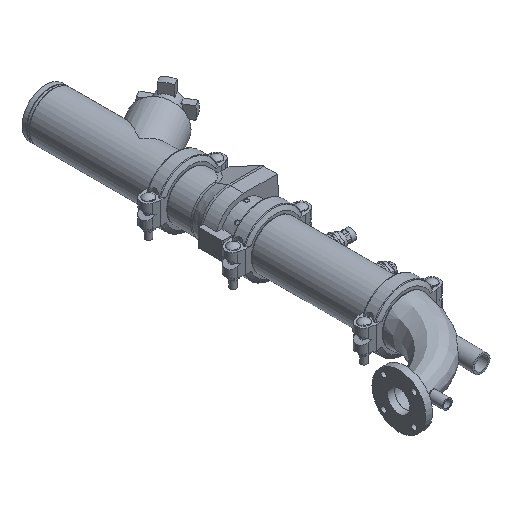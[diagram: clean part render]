
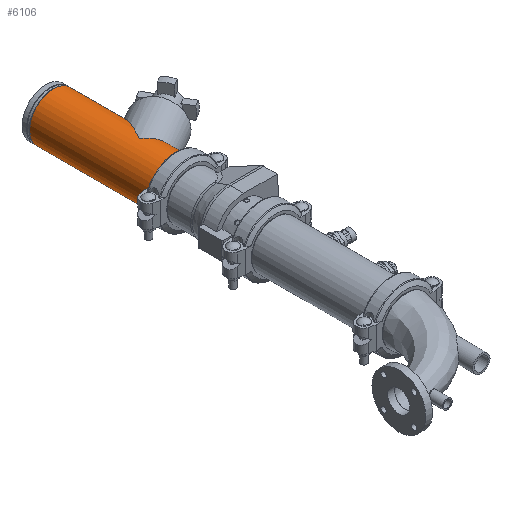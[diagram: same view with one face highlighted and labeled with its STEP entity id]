
A CAD part, isometric view. The second image highlights one B-rep face of the part: STEP entity #6106.
In plain terms, the highlighted cylindrical face has radius 84.138 mm (diameter 168.275 mm), a full revolution.
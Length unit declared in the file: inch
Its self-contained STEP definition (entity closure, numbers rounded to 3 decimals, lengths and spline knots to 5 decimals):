
#127=ELLIPSE('',#6667,6.625,3.3125);
#128=ELLIPSE('',#6668,3.82495,3.3125);
#129=ELLIPSE('',#6671,3.82495,3.3125);
#130=ELLIPSE('',#6672,6.625,3.3125);
#218=LINE('',#9389,#662);
#219=LINE('',#9395,#663);
#662=VECTOR('',#7517,3.3125);
#663=VECTOR('',#7522,3.3125);
#1077=CYLINDRICAL_SURFACE('',#6664,3.3125);
#1278=FACE_OUTER_BOUND('',#1621,.T.);
#1621=EDGE_LOOP('',(#3947,#3948,#3949,#3950,#3951,#3952,#3953,#3954,#3955,
#3956,#3957,#3958));
#2034=CIRCLE('',#6665,3.3125);
#2035=CIRCLE('',#6666,3.3125);
#2036=CIRCLE('',#6669,3.3125);
#2037=CIRCLE('',#6670,3.3125);
#2398=VERTEX_POINT('',#9384);
#2399=VERTEX_POINT('',#9385);
#2400=VERTEX_POINT('',#9388);
#2401=VERTEX_POINT('',#9390);
#2402=VERTEX_POINT('',#9392);
#2403=VERTEX_POINT('',#9394);
#2404=VERTEX_POINT('',#9396);
#2405=VERTEX_POINT('',#9399);
#3012=EDGE_CURVE('',#2398,#2399,#2034,.T.);
#3013=EDGE_CURVE('',#2399,#2398,#2035,.T.);
#3014=EDGE_CURVE('',#2399,#2400,#218,.T.);
#3015=EDGE_CURVE('',#2400,#2401,#127,.T.);
#3016=EDGE_CURVE('',#2401,#2402,#128,.T.);
#3017=EDGE_CURVE('',#2402,#2403,#219,.T.);
#3018=EDGE_CURVE('',#2403,#2404,#2036,.T.);
#3019=EDGE_CURVE('',#2404,#2403,#2037,.T.);
#3020=EDGE_CURVE('',#2402,#2405,#129,.T.);
#3021=EDGE_CURVE('',#2405,#2400,#130,.T.);
#3947=ORIENTED_EDGE('',*,*,#3012,.F.);
#3948=ORIENTED_EDGE('',*,*,#3013,.F.);
#3949=ORIENTED_EDGE('',*,*,#3014,.T.);
#3950=ORIENTED_EDGE('',*,*,#3015,.T.);
#3951=ORIENTED_EDGE('',*,*,#3016,.T.);
#3952=ORIENTED_EDGE('',*,*,#3017,.T.);
#3953=ORIENTED_EDGE('',*,*,#3018,.T.);
#3954=ORIENTED_EDGE('',*,*,#3019,.T.);
#3955=ORIENTED_EDGE('',*,*,#3017,.F.);
#3956=ORIENTED_EDGE('',*,*,#3020,.T.);
#3957=ORIENTED_EDGE('',*,*,#3021,.T.);
#3958=ORIENTED_EDGE('',*,*,#3014,.F.);
#6106=ADVANCED_FACE('',(#1278),#1077,.T.);
#6664=AXIS2_PLACEMENT_3D('',#9383,#7511,#7512);
#6665=AXIS2_PLACEMENT_3D('',#9386,#7513,#7514);
#6666=AXIS2_PLACEMENT_3D('',#9387,#7515,#7516);
#6667=AXIS2_PLACEMENT_3D('',#9391,#7518,#7519);
#6668=AXIS2_PLACEMENT_3D('',#9393,#7520,#7521);
#6669=AXIS2_PLACEMENT_3D('',#9397,#7523,#7524);
#6670=AXIS2_PLACEMENT_3D('',#9398,#7525,#7526);
#6671=AXIS2_PLACEMENT_3D('',#9400,#7527,#7528);
#6672=AXIS2_PLACEMENT_3D('',#9401,#7529,#7530);
#7511=DIRECTION('center_axis',(1.,0.,0.));
#7512=DIRECTION('ref_axis',(0.,1.,0.));
#7513=DIRECTION('center_axis',(1.,0.,0.));
#7514=DIRECTION('ref_axis',(0.,0.,-1.));
#7515=DIRECTION('center_axis',(1.,0.,0.));
#7516=DIRECTION('ref_axis',(0.,0.,-1.));
#7517=DIRECTION('',(-1.,0.,0.));
#7518=DIRECTION('center_axis',(0.5,0.866,0.));
#7519=DIRECTION('ref_axis',(-0.866,0.5,0.));
#7520=DIRECTION('center_axis',(-0.866,0.5,0.));
#7521=DIRECTION('ref_axis',(-0.5,-0.866,0.));
#7522=DIRECTION('',(-1.,0.,0.));
#7523=DIRECTION('center_axis',(1.,0.,0.));
#7524=DIRECTION('ref_axis',(0.,0.,-1.));
#7525=DIRECTION('center_axis',(1.,0.,0.));
#7526=DIRECTION('ref_axis',(0.,0.,-1.));
#7527=DIRECTION('center_axis',(-0.866,0.5,0.));
#7528=DIRECTION('ref_axis',(-0.5,-0.866,0.));
#7529=DIRECTION('center_axis',(0.5,0.866,0.));
#7530=DIRECTION('ref_axis',(-0.866,0.5,0.));
#9383=CARTESIAN_POINT('Origin',(0.,0.,
0.));
#9384=CARTESIAN_POINT('',(8.44,3.3125,0.));
#9385=CARTESIAN_POINT('',(8.44,-3.3125,0.));
#9386=CARTESIAN_POINT('Origin',(8.44,0.,0.));
#9387=CARTESIAN_POINT('Origin',(8.44,0.,0.));
#9388=CARTESIAN_POINT('',(2.15155,-3.3125,0.));
#9389=CARTESIAN_POINT('',(0.,-3.3125,0.));
#9390=CARTESIAN_POINT('',(-3.58586,0.,-3.3125));
#9391=CARTESIAN_POINT('Origin',(-3.58586,0.,
0.));
#9392=CARTESIAN_POINT('',(-5.49834,-3.3125,0.));
#9393=CARTESIAN_POINT('Origin',(-3.58586,0.,
0.));
#9394=CARTESIAN_POINT('',(-8.44,-3.3125,0.));
#9395=CARTESIAN_POINT('',(0.,-3.3125,0.));
#9396=CARTESIAN_POINT('',(-8.44,3.3125,0.));
#9397=CARTESIAN_POINT('Origin',(-8.44,0.,0.));
#9398=CARTESIAN_POINT('Origin',(-8.44,0.,0.));
#9399=CARTESIAN_POINT('',(-3.58586,0.,3.3125));
#9400=CARTESIAN_POINT('Origin',(-3.58586,0.,
0.));
#9401=CARTESIAN_POINT('Origin',(-3.58586,0.,
0.));
